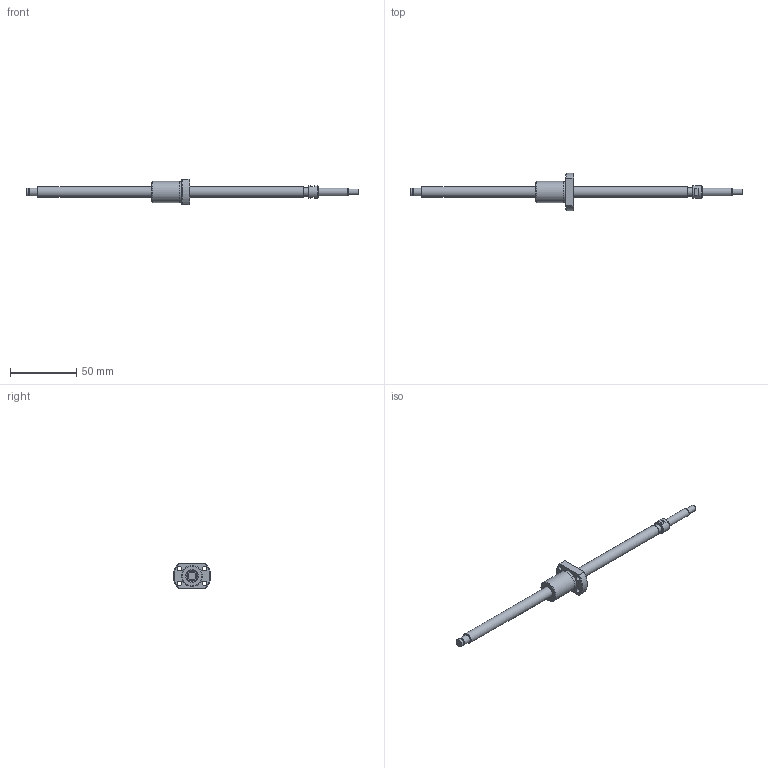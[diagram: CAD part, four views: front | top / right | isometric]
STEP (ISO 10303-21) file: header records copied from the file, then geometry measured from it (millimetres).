
FILE_DESCRIPTION(/* description */ ('STEP AP214'),/* implementation_level */ '2;1');
FILE_NAME(/* name */ 'NSGF0805Z-200R250C3-0-T-S-T-B-(85.75-S)',/* time_stamp */ '2026-08-24T20:12:32+02:00',/* author */ ('License CC BY-ND 4.0'),/* organization */ ('CADENAS'),/* preprocessor_version */ 'ST-DEVELOPER v20',/* originating_system */ 'PARTsolutions',/* authorisation */ ' ');
FILE_SCHEMA (('AUTOMOTIVE_DESIGN {1 0 10303 214 3 1 1}'));
Length unit declared in the file: millimetre
Products named in the file (3): NSGF0805Z-200R250C3-0-T-S-T-B-(85.75-S); NSG0805Z-200R25030.5_(T-S_T-B_2)-2; NSGF0805Z-1
Assembly tree (2 placements, depth 2):
  NSGF0805Z-200R250C3-0-T-S-T-B-(85.75-S)
    NSG0805Z-200R25030.5_(T-S_T-B_2)-2
    NSGF0805Z-1
Bounding box: 250 x 27.9 x 19 mm (x, y, z)
Volume: 16811.2 mm3; surface area: 9667.7 mm2
Topology: 2 solids, 2 shells, 50 faces, 100 edges, 66 vertices
Faces by surface type: plane 22, cylinder 18, cone 8, torus 2
Full cylindrical faces by diameter (mm): 3.4 x4, 4.5 x1, 5.7 x1, 6 x3, 6.3 x1, 8 x2, 9.5 x1, 15.5 x1, 16 x2
Entity records: 1275 total; most frequent: DIRECTION 222, CARTESIAN_POINT 213, ORIENTED_EDGE 148, AXIS2_PLACEMENT_3D 103, EDGE_LOOP 94, FACE_BOUND 94, EDGE_CURVE 74, VERTEX_POINT 62
